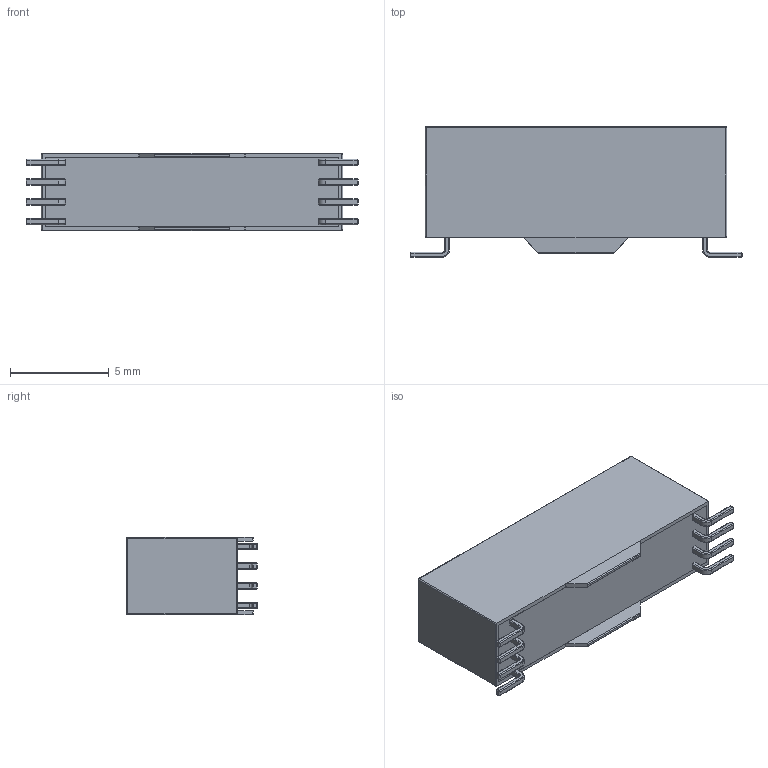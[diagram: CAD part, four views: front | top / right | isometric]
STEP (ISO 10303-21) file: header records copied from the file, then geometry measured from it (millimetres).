
FILE_DESCRIPTION (( 'STEP AP203' ), '1' );
FILE_NAME ('200RF.STEP', '2010-06-29T12:25:32', ( ' ' ), ( '' ), 'SwSTEP 2.0', 'SolidWorks 2009', '' );
FILE_SCHEMA (( 'CONFIG_CONTROL_DESIGN' ));
Length unit declared in the file: inch
Products named in the file (4): 200RF; 200 Co-Axial Shell; 200 Co-Axial internal; 200 Co- Axial series pin
Assembly tree (10 placements, depth 2):
  200RF
    200 Co- Axial series pin  x8
    200 Co-Axial Shell
    200 Co-Axial internal
Bounding box: 16.8 x 6.6 x 3.9 mm (x, y, z)
Volume: 336.1 mm3; surface area: 870.7 mm2
Topology: 10 solids, 10 shells, 594 faces, 1436 edges, 872 vertices
Faces by surface type: plane 300, cylinder 168, bspline 58, sphere 36, torus 32
Entity records: 15230 total; most frequent: CARTESIAN_POINT 6284, ORIENTED_EDGE 1820, DIRECTION 1502, EDGE_CURVE 910, VECTOR 682, LINE 682, VERTEX_POINT 592, AXIS2_PLACEMENT_3D 410
